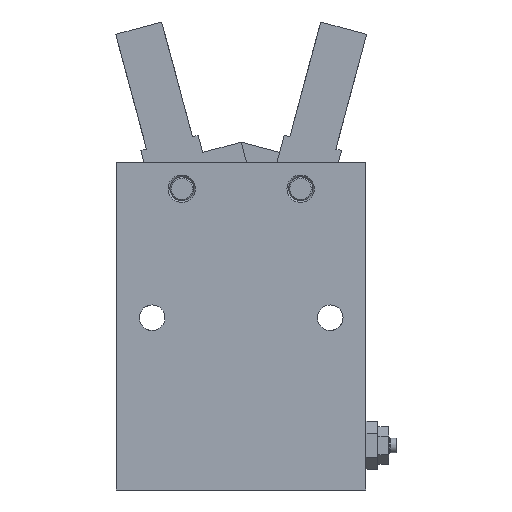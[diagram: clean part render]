
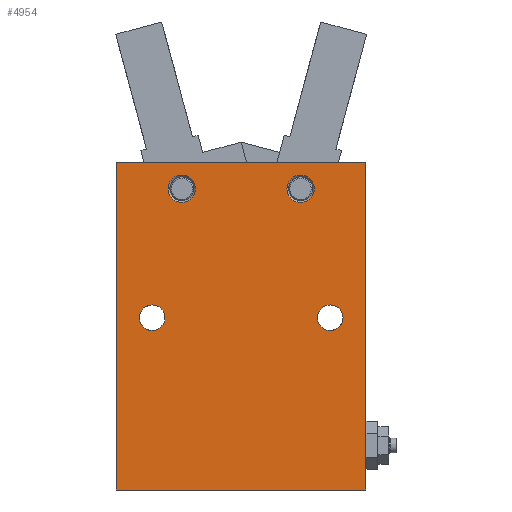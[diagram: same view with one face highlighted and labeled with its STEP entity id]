
A CAD part, front view. The second image highlights one B-rep face of the part: STEP entity #4954.
In plain terms, the highlighted planar face has unit normal (0, -1, 0).
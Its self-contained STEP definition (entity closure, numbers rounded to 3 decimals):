
#9 = EDGE_CURVE ( 'NONE', #1495, #1494, #1530, .T. ) ;
#183 = VERTEX_POINT ( 'NONE', #1838 ) ;
#184 = EDGE_CURVE ( 'NONE', #183, #5040, #1837, .T. ) ;
#193 = VERTEX_POINT ( 'NONE', #1880 ) ;
#298 = EDGE_CURVE ( 'NONE', #5032, #2442, #1988, .T. ) ;
#312 = ORIENTED_EDGE ( 'NONE', *, *, #4930, .T. ) ;
#315 = ORIENTED_EDGE ( 'NONE', *, *, #1333, .T. ) ;
#319 = EDGE_LOOP ( 'NONE', ( #315, #312 ) ) ;
#320 = EDGE_CURVE ( 'NONE', #423, #193, #2027, .T. ) ;
#321 = ORIENTED_EDGE ( 'NONE', *, *, #320, .T. ) ;
#322 = EDGE_LOOP ( 'NONE', ( #323, #321 ) ) ;
#323 = ORIENTED_EDGE ( 'NONE', *, *, #4950, .T. ) ;
#423 = VERTEX_POINT ( 'NONE', #2269 ) ;
#1333 = EDGE_CURVE ( 'NONE', #4962, #4980, #2159, .T. ) ;
#1494 = VERTEX_POINT ( 'NONE', #4031 ) ;
#1495 = VERTEX_POINT ( 'NONE', #4030 ) ;
#1498 = EDGE_CURVE ( 'NONE', #1494, #1495, #4023, .T. ) ;
#1526 = DIRECTION ( 'NONE',  ( 0., 0., 1. ) ) ;
#1527 = DIRECTION ( 'NONE',  ( 0., 1., 0. ) ) ;
#1528 = CARTESIAN_POINT ( 'NONE',  ( 15., -13.8, 1.4 ) ) ;
#1529 = AXIS2_PLACEMENT_3D ( 'NONE', #1528, #1527, #1526 ) ;
#1530 = CIRCLE ( 'NONE', #1529, 2.15 ) ;
#1833 = DIRECTION ( 'NONE',  ( 0., 0., 1. ) ) ;
#1834 = DIRECTION ( 'NONE',  ( 0., 1., 0. ) ) ;
#1835 = CARTESIAN_POINT ( 'NONE',  ( -10., -13.8, 23.1 ) ) ;
#1836 = AXIS2_PLACEMENT_3D ( 'NONE', #1835, #1834, #1833 ) ;
#1837 = CIRCLE ( 'NONE', #1836, 2.3 ) ;
#1838 = CARTESIAN_POINT ( 'NONE',  ( -10., -13.8, 20.8 ) ) ;
#1880 = CARTESIAN_POINT ( 'NONE',  ( 10., -13.8, 20.8 ) ) ;
#1984 = CARTESIAN_POINT ( 'NONE',  ( 21., -13.8, 27.6 ) ) ;
#1988 = LINE ( 'NONE', #1984, #2048 ) ;
#2018 = DIRECTION ( 'NONE',  ( 0., 0., 1. ) ) ;
#2019 = DIRECTION ( 'NONE',  ( 0., 1., 0. ) ) ;
#2020 = CARTESIAN_POINT ( 'NONE',  ( 10., -13.8, 23.1 ) ) ;
#2021 = AXIS2_PLACEMENT_3D ( 'NONE', #2020, #2019, #2018 ) ;
#2027 = CIRCLE ( 'NONE', #2021, 2.3 ) ;
#2047 = DIRECTION ( 'NONE',  ( -1., 0., 0. ) ) ;
#2048 = VECTOR ( 'NONE', #2047, 1000. ) ;
#2159 = CIRCLE ( 'NONE', #3441, 2.15 ) ;
#2269 = CARTESIAN_POINT ( 'NONE',  ( 10., -13.8, 25.4 ) ) ;
#2442 = VERTEX_POINT ( 'NONE', #4097 ) ;
#2446 = EDGE_CURVE ( 'NONE', #2442, #2448, #4089, .T. ) ;
#2448 = VERTEX_POINT ( 'NONE', #4082 ) ;
#3185 = CARTESIAN_POINT ( 'NONE',  ( -15., -13.8, 1.4 ) ) ;
#3441 = AXIS2_PLACEMENT_3D ( 'NONE', #3185, #3691, #4780 ) ;
#3691 = DIRECTION ( 'NONE',  ( 0., 1., 0. ) ) ;
#4019 = DIRECTION ( 'NONE',  ( 0., 0., 1. ) ) ;
#4020 = DIRECTION ( 'NONE',  ( 0., 1., 0. ) ) ;
#4021 = CARTESIAN_POINT ( 'NONE',  ( 15., -13.8, 1.4 ) ) ;
#4022 = AXIS2_PLACEMENT_3D ( 'NONE', #4021, #4020, #4019 ) ;
#4023 = CIRCLE ( 'NONE', #4022, 2.15 ) ;
#4030 = CARTESIAN_POINT ( 'NONE',  ( 15., -13.8, 3.55 ) ) ;
#4031 = CARTESIAN_POINT ( 'NONE',  ( 15., -13.8, -0.75 ) ) ;
#4082 = CARTESIAN_POINT ( 'NONE',  ( -21., -13.8, -27.6 ) ) ;
#4083 = DIRECTION ( 'NONE',  ( 0., 0., -1. ) ) ;
#4084 = VECTOR ( 'NONE', #4083, 1000. ) ;
#4085 = CARTESIAN_POINT ( 'NONE',  ( -21., -13.8, -27.6 ) ) ;
#4089 = LINE ( 'NONE', #4085, #4084 ) ;
#4097 = CARTESIAN_POINT ( 'NONE',  ( -21., -13.8, 27.6 ) ) ;
#4269 = DIRECTION ( 'NONE',  ( 0., 0., -1. ) ) ;
#4270 = DIRECTION ( 'NONE',  ( 0., 1., 0. ) ) ;
#4271 = CARTESIAN_POINT ( 'NONE',  ( -15., -13.8, 1.4 ) ) ;
#4272 = AXIS2_PLACEMENT_3D ( 'NONE', #4271, #4270, #4269 ) ;
#4273 = CIRCLE ( 'NONE', #4272, 2.15 ) ;
#4325 = CARTESIAN_POINT ( 'NONE',  ( -15., -13.8, 3.55 ) ) ;
#4332 = DIRECTION ( 'NONE',  ( 0., 0., 1. ) ) ;
#4333 = DIRECTION ( 'NONE',  ( 0., 1., 0. ) ) ;
#4334 = CARTESIAN_POINT ( 'NONE',  ( 21., -13.8, -27.6 ) ) ;
#4335 = AXIS2_PLACEMENT_3D ( 'NONE', #4334, #4333, #4332 ) ;
#4336 = PLANE ( 'NONE',  #4335 ) ;
#4337 = FACE_OUTER_BOUND ( 'NONE', #4974, .T. ) ;
#4338 = FACE_BOUND ( 'NONE', #4991, .T. ) ;
#4339 = FACE_BOUND ( 'NONE', #319, .T. ) ;
#4340 = FACE_BOUND ( 'NONE', #322, .T. ) ;
#4341 = FACE_BOUND ( 'NONE', #4922, .T. ) ;
#4343 = DIRECTION ( 'NONE',  ( 0., 0., 1. ) ) ;
#4344 = DIRECTION ( 'NONE',  ( 0., 1., 0. ) ) ;
#4345 = CARTESIAN_POINT ( 'NONE',  ( 10., -13.8, 23.1 ) ) ;
#4346 = AXIS2_PLACEMENT_3D ( 'NONE', #4345, #4344, #4343 ) ;
#4347 = CIRCLE ( 'NONE', #4346, 2.3 ) ;
#4364 = DIRECTION ( 'NONE',  ( 0., 0., 1. ) ) ;
#4365 = DIRECTION ( 'NONE',  ( 0., 1., 0. ) ) ;
#4366 = CARTESIAN_POINT ( 'NONE',  ( -10., -13.8, 23.1 ) ) ;
#4367 = AXIS2_PLACEMENT_3D ( 'NONE', #4366, #4365, #4364 ) ;
#4368 = CIRCLE ( 'NONE', #4367, 2.3 ) ;
#4375 = CARTESIAN_POINT ( 'NONE',  ( -15., -13.8, -0.75 ) ) ;
#4376 = DIRECTION ( 'NONE',  ( -1., 0., 0. ) ) ;
#4377 = VECTOR ( 'NONE', #4376, 1000. ) ;
#4378 = CARTESIAN_POINT ( 'NONE',  ( 21., -13.8, -27.6 ) ) ;
#4382 = LINE ( 'NONE', #4378, #4377 ) ;
#4422 = CARTESIAN_POINT ( 'NONE',  ( 21., -13.8, -27.6 ) ) ;
#4446 = CARTESIAN_POINT ( 'NONE',  ( -10., -13.8, 25.4 ) ) ;
#4461 = CARTESIAN_POINT ( 'NONE',  ( 21., -13.8, 27.6 ) ) ;
#4463 = DIRECTION ( 'NONE',  ( 0., 0., -1. ) ) ;
#4464 = VECTOR ( 'NONE', #4463, 1000. ) ;
#4465 = CARTESIAN_POINT ( 'NONE',  ( 21., -13.8, -27.6 ) ) ;
#4466 = LINE ( 'NONE', #4465, #4464 ) ;
#4780 = DIRECTION ( 'NONE',  ( 0., 0., -1. ) ) ;
#4922 = EDGE_LOOP ( 'NONE', ( #4986, #4987 ) ) ;
#4930 = EDGE_CURVE ( 'NONE', #4980, #4962, #4273, .T. ) ;
#4950 = EDGE_CURVE ( 'NONE', #193, #423, #4347, .T. ) ;
#4954 = ADVANCED_FACE ( 'NONE', ( #4341, #4340, #4339, #4338, #4337 ), #4336, .F. ) ;
#4962 = VERTEX_POINT ( 'NONE', #4325 ) ;
#4969 = ORIENTED_EDGE ( 'NONE', *, *, #5028, .F. ) ;
#4970 = ORIENTED_EDGE ( 'NONE', *, *, #298, .T. ) ;
#4972 = ORIENTED_EDGE ( 'NONE', *, *, #4973, .F. ) ;
#4973 = EDGE_CURVE ( 'NONE', #5022, #2448, #4382, .T. ) ;
#4974 = EDGE_LOOP ( 'NONE', ( #4976, #4972, #4969, #4970 ) ) ;
#4976 = ORIENTED_EDGE ( 'NONE', *, *, #2446, .T. ) ;
#4977 = ORIENTED_EDGE ( 'NONE', *, *, #9, .T. ) ;
#4978 = ORIENTED_EDGE ( 'NONE', *, *, #1498, .T. ) ;
#4980 = VERTEX_POINT ( 'NONE', #4375 ) ;
#4985 = EDGE_CURVE ( 'NONE', #5040, #183, #4368, .T. ) ;
#4986 = ORIENTED_EDGE ( 'NONE', *, *, #184, .T. ) ;
#4987 = ORIENTED_EDGE ( 'NONE', *, *, #4985, .T. ) ;
#4991 = EDGE_LOOP ( 'NONE', ( #4977, #4978 ) ) ;
#5022 = VERTEX_POINT ( 'NONE', #4422 ) ;
#5028 = EDGE_CURVE ( 'NONE', #5032, #5022, #4466, .T. ) ;
#5032 = VERTEX_POINT ( 'NONE', #4461 ) ;
#5040 = VERTEX_POINT ( 'NONE', #4446 ) ;
